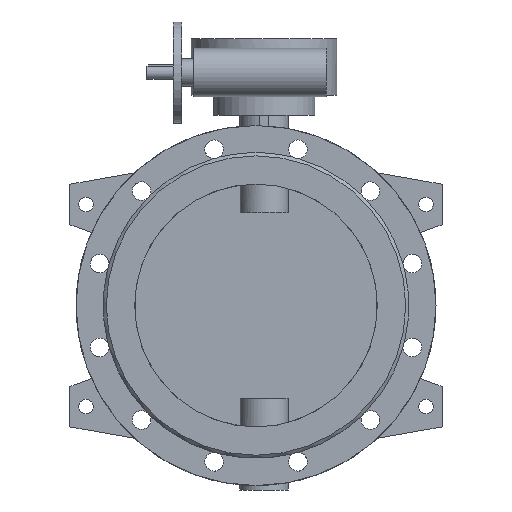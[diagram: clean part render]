
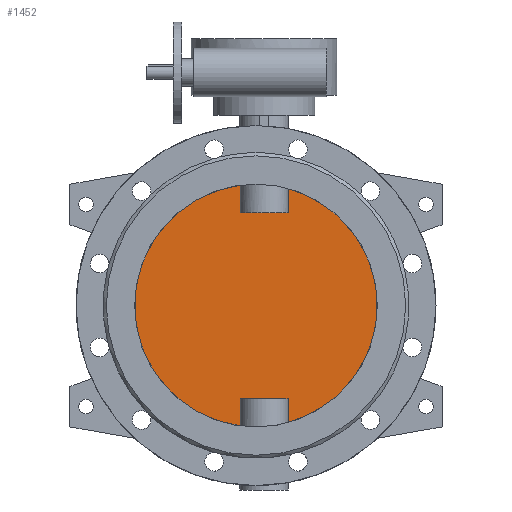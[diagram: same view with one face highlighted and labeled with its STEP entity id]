
A CAD part, front view. The second image highlights one B-rep face of the part: STEP entity #1452.
In plain terms, the highlighted planar face has unit normal (0, -1, 0).
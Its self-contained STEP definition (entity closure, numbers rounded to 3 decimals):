
#1452=ADVANCED_FACE('',(#2924),#2926,.F.);
#2924=FACE_BOUND('',#2925,.T.);
#2925=EDGE_LOOP('',(#3864,#3865,#3866,#3867,#3868,#3869,#3870,#3871));
#2926=PLANE('',#2927);
#2927=AXIS2_PLACEMENT_3D('',#2928,#2929,#2930);
#2928=CARTESIAN_POINT('',(0.,-5.,0.));
#2929=DIRECTION('',(0.,1.,0.));
#2930=DIRECTION('',(1.,0.,0.));
#3864=ORIENTED_EDGE('',*,*,#4334,.T.);
#3865=ORIENTED_EDGE('',*,*,#4340,.T.);
#3866=ORIENTED_EDGE('',*,*,#4341,.T.);
#3867=ORIENTED_EDGE('',*,*,#4342,.T.);
#3868=ORIENTED_EDGE('',*,*,#4336,.T.);
#3869=ORIENTED_EDGE('',*,*,#4343,.T.);
#3870=ORIENTED_EDGE('',*,*,#4344,.T.);
#3871=ORIENTED_EDGE('',*,*,#4345,.T.);
#4334=EDGE_CURVE('',#5092,#5093,#5094,.F.);
#4336=EDGE_CURVE('',#5097,#5095,#5098,.F.);
#4340=EDGE_CURVE('',#5093,#5104,#5105,.T.);
#4341=EDGE_CURVE('',#5104,#5106,#5107,.F.);
#4342=EDGE_CURVE('',#5106,#5097,#5108,.F.);
#4343=EDGE_CURVE('',#5095,#5109,#5110,.F.);
#4344=EDGE_CURVE('',#5109,#5111,#5112,.F.);
#4345=EDGE_CURVE('',#5111,#5092,#5113,.T.);
#5092=VERTEX_POINT('',#8830);
#5093=VERTEX_POINT('',#8831);
#5094=CIRCLE('',#8832,150.);
#5095=VERTEX_POINT('',#8836);
#5097=VERTEX_POINT('',#8942);
#5098=CIRCLE('',#8943,150.);
#5104=VERTEX_POINT('',#9074);
#5105=LINE('',#9075,#9076);
#5106=VERTEX_POINT('',#9078);
#5107=LINE('',#9079,#9080);
#5108=LINE('',#9082,#9083);
#5109=VERTEX_POINT('',#9085);
#5110=LINE('',#9086,#9087);
#5111=VERTEX_POINT('',#9089);
#5112=LINE('',#9090,#9091);
#5113=LINE('',#9093,#9094);
#8830=CARTESIAN_POINT('',(39.58,-5.,-144.684));
#8831=CARTESIAN_POINT('',(39.58,-5.,144.684));
#8832=AXIS2_PLACEMENT_3D('',#8833,#8834,#8835);
#8833=CARTESIAN_POINT('',(0.,-5.,0.));
#8834=DIRECTION('',(0.,1.,0.));
#8835=DIRECTION('',(0.264,0.,0.965));
#8836=CARTESIAN_POINT('',(-19.58,-5.,-148.717));
#8942=CARTESIAN_POINT('',(-19.58,-5.,148.717));
#8943=AXIS2_PLACEMENT_3D('',#8944,#8945,#8946);
#8944=CARTESIAN_POINT('',(0.,-5.,0.));
#8945=DIRECTION('',(0.,1.,0.));
#8946=DIRECTION('',(-0.131,0.,-0.991));
#9074=CARTESIAN_POINT('',(39.58,-5.,115.));
#9075=CARTESIAN_POINT('',(39.58,-5.,144.684));
#9076=VECTOR('',#9077,1.);
#9077=DIRECTION('',(0.,0.,-1.));
#9078=CARTESIAN_POINT('',(-19.58,-5.,115.));
#9079=CARTESIAN_POINT('',(-19.58,-5.,115.));
#9080=VECTOR('',#9081,1.);
#9081=DIRECTION('',(1.,0.,0.));
#9082=CARTESIAN_POINT('',(-19.58,-5.,148.717));
#9083=VECTOR('',#9084,1.);
#9084=DIRECTION('',(0.,0.,-1.));
#9085=CARTESIAN_POINT('',(-19.58,-5.,-115.));
#9086=CARTESIAN_POINT('',(-19.58,-5.,-115.));
#9087=VECTOR('',#9088,1.);
#9088=DIRECTION('',(0.,0.,-1.));
#9089=CARTESIAN_POINT('',(39.58,-5.,-115.));
#9090=CARTESIAN_POINT('',(39.58,-5.,-115.));
#9091=VECTOR('',#9092,1.);
#9092=DIRECTION('',(-1.,0.,0.));
#9093=CARTESIAN_POINT('',(39.58,-5.,-115.));
#9094=VECTOR('',#9095,1.);
#9095=DIRECTION('',(0.,0.,-1.));
